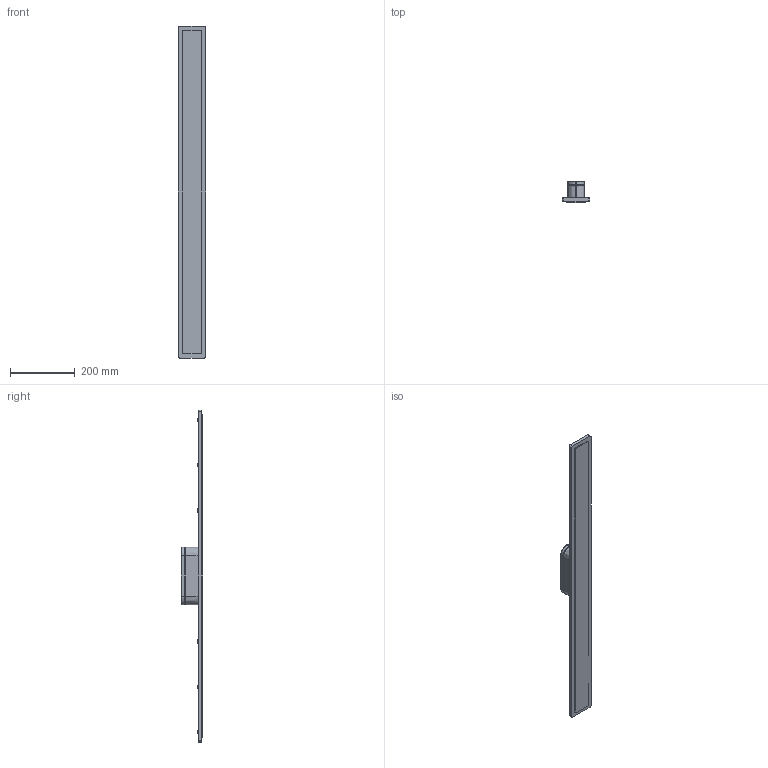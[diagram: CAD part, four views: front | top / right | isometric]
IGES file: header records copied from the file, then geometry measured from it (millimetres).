
Start section: SolidWorks IGES file using analytic representation for surfaces
Global section: file name: C:\Users\anna.bielnik\Desktop\ISLA-LED\isla zlozenie.IGS; native system: SolidWorks 2023; preprocessor: SolidWorks 2023; author: anna.bielnik; date: 241106.080222; units: millimetre
Bounding box: 85 x 66 x 1025 mm (x, y, z)
Surface area: 371902.5 mm2 (no closed solid volume)
Topology: 0 solids, 0 shells, 105 faces, 1912 edges, 1912 vertices
Faces by surface type: bspline 53, revolution 52
